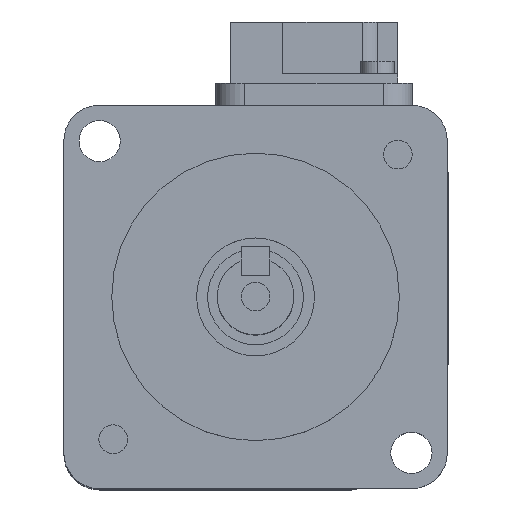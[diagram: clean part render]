
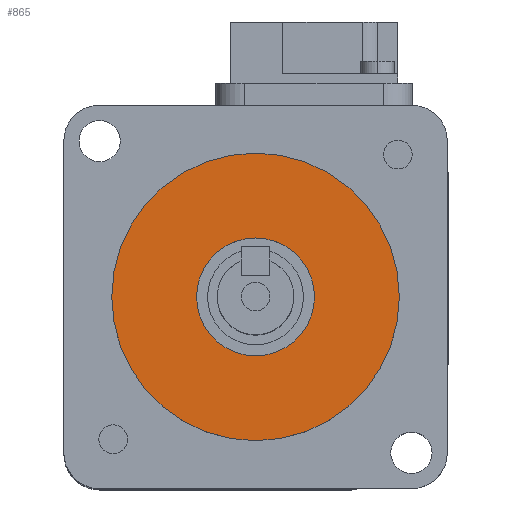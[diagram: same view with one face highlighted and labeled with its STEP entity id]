
A CAD part, top view. The second image highlights one B-rep face of the part: STEP entity #865.
In plain terms, the highlighted planar face has unit normal (0, 0, 1).
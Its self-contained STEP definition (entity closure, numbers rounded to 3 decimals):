
#368 = VERTEX_POINT ( 'NONE', #3266 ) ;
#791 = ORIENTED_EDGE ( 'NONE', *, *, #792, .T. ) ;
#792 = EDGE_CURVE ( 'NONE', #1604, #368, #4019, .T. ) ;
#793 = ORIENTED_EDGE ( 'NONE', *, *, #1552, .T. ) ;
#794 = EDGE_LOOP ( 'NONE', ( #845, #846 ) ) ;
#845 = ORIENTED_EDGE ( 'NONE', *, *, #1569, .F. ) ;
#846 = ORIENTED_EDGE ( 'NONE', *, *, #847, .F. ) ;
#847 = EDGE_CURVE ( 'NONE', #1632, #1615, #4133, .T. ) ;
#865 = ADVANCED_FACE ( 'NONE', ( #4166, #4165 ), #4164, .T. ) ;
#866 = EDGE_LOOP ( 'NONE', ( #791, #793 ) ) ;
#1552 = EDGE_CURVE ( 'NONE', #368, #1604, #5171, .T. ) ;
#1569 = EDGE_CURVE ( 'NONE', #1615, #1632, #5262, .T. ) ;
#1604 = VERTEX_POINT ( 'NONE', #5276 ) ;
#1615 = VERTEX_POINT ( 'NONE', #5320 ) ;
#1632 = VERTEX_POINT ( 'NONE', #5298 ) ;
#3266 = CARTESIAN_POINT ( 'NONE',  ( 6.15, 0., 2.5 ) ) ;
#4015 = DIRECTION ( 'NONE',  ( -1., 0., 0. ) ) ;
#4016 = DIRECTION ( 'NONE',  ( 0., 0., -1. ) ) ;
#4017 = CARTESIAN_POINT ( 'NONE',  ( 0., 0., 2.5 ) ) ;
#4018 = AXIS2_PLACEMENT_3D ( 'NONE', #4017, #4016, #4015 ) ;
#4019 = CIRCLE ( 'NONE', #4018, 6.15 ) ;
#4129 = DIRECTION ( 'NONE',  ( -1., 0., 0. ) ) ;
#4130 = DIRECTION ( 'NONE',  ( 0., 0., -1. ) ) ;
#4131 = CARTESIAN_POINT ( 'NONE',  ( 0., 0., 2.5 ) ) ;
#4132 = AXIS2_PLACEMENT_3D ( 'NONE', #4131, #4130, #4129 ) ;
#4133 = CIRCLE ( 'NONE', #4132, 15. ) ;
#4160 = DIRECTION ( 'NONE',  ( 1., 0., 0. ) ) ;
#4161 = DIRECTION ( 'NONE',  ( 0., 0., 1. ) ) ;
#4162 = CARTESIAN_POINT ( 'NONE',  ( 0., 15., 2.5 ) ) ;
#4163 = AXIS2_PLACEMENT_3D ( 'NONE', #4162, #4161, #4160 ) ;
#4164 = PLANE ( 'NONE',  #4163 ) ;
#4165 = FACE_OUTER_BOUND ( 'NONE', #794, .T. ) ;
#4166 = FACE_BOUND ( 'NONE', #866, .T. ) ;
#5169 = CARTESIAN_POINT ( 'NONE',  ( 0., 0., 2.5 ) ) ;
#5170 = AXIS2_PLACEMENT_3D ( 'NONE', #5169, #5232, #5231 ) ;
#5171 = CIRCLE ( 'NONE', #5170, 6.15 ) ;
#5231 = DIRECTION ( 'NONE',  ( -1., 0., 0. ) ) ;
#5232 = DIRECTION ( 'NONE',  ( 0., 0., -1. ) ) ;
#5258 = DIRECTION ( 'NONE',  ( -1., 0., 0. ) ) ;
#5259 = DIRECTION ( 'NONE',  ( 0., 0., -1. ) ) ;
#5260 = CARTESIAN_POINT ( 'NONE',  ( 0., 0., 2.5 ) ) ;
#5261 = AXIS2_PLACEMENT_3D ( 'NONE', #5260, #5259, #5258 ) ;
#5262 = CIRCLE ( 'NONE', #5261, 15. ) ;
#5276 = CARTESIAN_POINT ( 'NONE',  ( -6.15, 0., 2.5 ) ) ;
#5298 = CARTESIAN_POINT ( 'NONE',  ( 15., 0., 2.5 ) ) ;
#5320 = CARTESIAN_POINT ( 'NONE',  ( -15., 0., 2.5 ) ) ;
